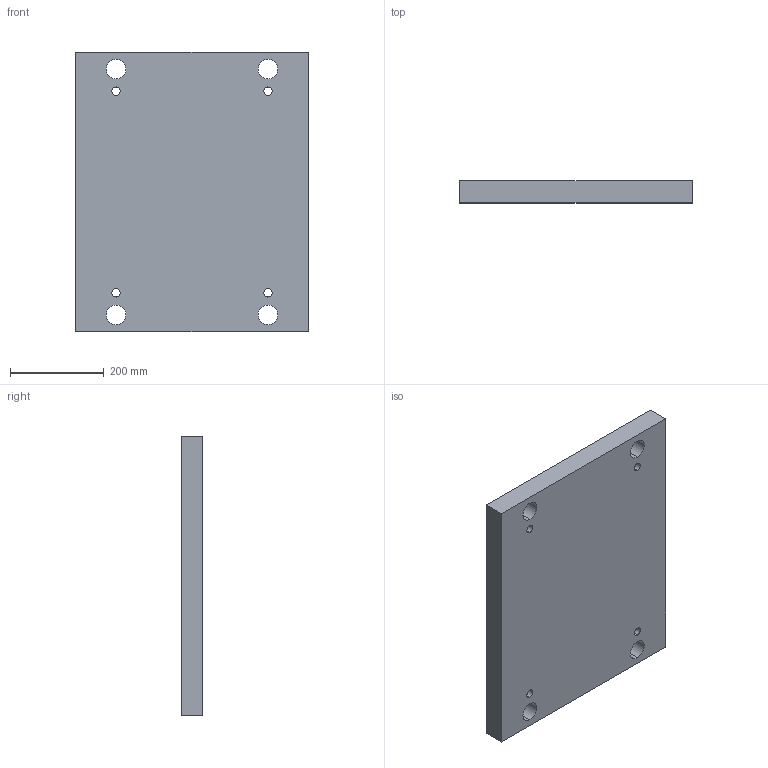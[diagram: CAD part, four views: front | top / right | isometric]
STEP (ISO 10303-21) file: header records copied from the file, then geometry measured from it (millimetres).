
FILE_DESCRIPTION (( 'STEP AP214' ), '1' );
FILE_NAME ('L10_396x596x046.STEP', '2018-10-05T01:14:38', ( '' ), ( '' ), 'SwSTEP 2.0', 'SolidWorks 2014', '' );
FILE_SCHEMA (( 'AUTOMOTIVE_DESIGN' ));
Length unit declared in the file: millimetre
Products named in the file (1): L10_396x596x046
Bounding box: 496 x 46 x 596 mm (x, y, z)
Volume: 13273369.7 mm3; surface area: 715371 mm2
Topology: 1 solids, 1 shells, 34 faces, 84 edges, 56 vertices
Faces by surface type: cylinder 24, plane 10
Entity records: 1102 total; most frequent: DIRECTION 202, CARTESIAN_POINT 175, ORIENTED_EDGE 168, EDGE_CURVE 84, AXIS2_PLACEMENT_3D 83, VERTEX_POINT 56, EDGE_LOOP 54, CIRCLE 48
